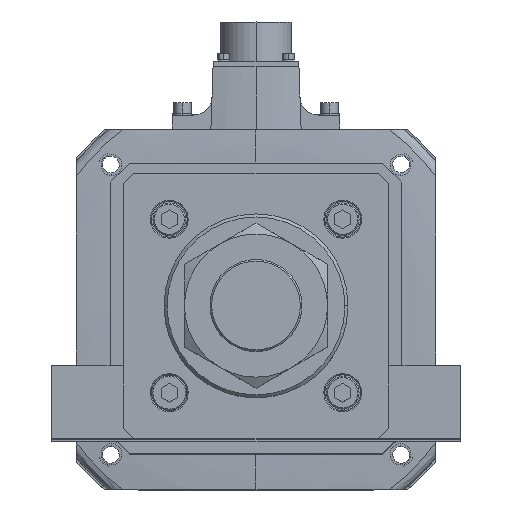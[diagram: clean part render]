
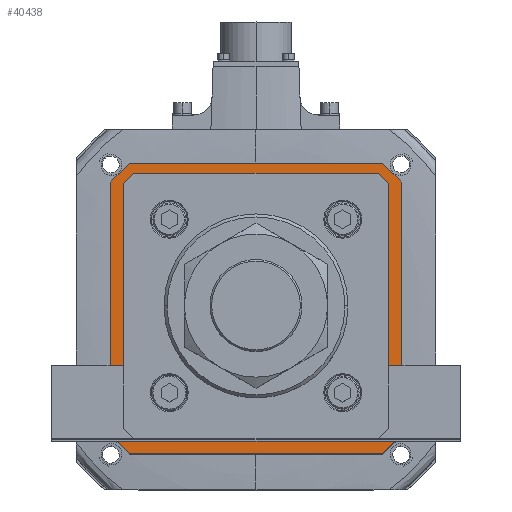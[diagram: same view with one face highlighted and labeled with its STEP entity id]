
A CAD part, top view. The second image highlights one B-rep face of the part: STEP entity #40438.
In plain terms, the highlighted planar face has unit normal (0, 0, 1).
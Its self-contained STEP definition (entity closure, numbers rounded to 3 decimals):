
#312 = CARTESIAN_POINT ( 'NONE',  ( -71., 62., -142. ) ) ;
#458 = LINE ( 'NONE', #42615, #24464 ) ;
#636 = CARTESIAN_POINT ( 'NONE',  ( 58.793, -63., -142. ) ) ;
#639 = ORIENTED_EDGE ( 'NONE', *, *, #35162, .T. ) ;
#863 = CARTESIAN_POINT ( 'NONE',  ( 63., 0., -142. ) ) ;
#952 = VECTOR ( 'NONE', #40757, 1000. ) ;
#1351 = EDGE_CURVE ( 'NONE', #38149, #47759, #20617, .T. ) ;
#1383 = LINE ( 'NONE', #17577, #10789 ) ;
#1620 = VERTEX_POINT ( 'NONE', #33879 ) ;
#1997 = ORIENTED_EDGE ( 'NONE', *, *, #21909, .F. ) ;
#2743 = DIRECTION ( 'NONE',  ( -0.707, -0.707, 0. ) ) ;
#3027 = DIRECTION ( 'NONE',  ( 0., 1., 0. ) ) ;
#3656 = DIRECTION ( 'NONE',  ( 0.707, -0.707, 0. ) ) ;
#4375 = EDGE_CURVE ( 'NONE', #19009, #14484, #31655, .T. ) ;
#4557 = ORIENTED_EDGE ( 'NONE', *, *, #4375, .T. ) ;
#4754 = ORIENTED_EDGE ( 'NONE', *, *, #23388, .T. ) ;
#5598 = CARTESIAN_POINT ( 'NONE',  ( 58.793, 63., -142. ) ) ;
#6096 = DIRECTION ( 'NONE',  ( 1., 0., 0. ) ) ;
#6195 = FACE_BOUND ( 'NONE', #9672, .T. ) ;
#6383 = DIRECTION ( 'NONE',  ( -1., 0., 0. ) ) ;
#9064 = CARTESIAN_POINT ( 'NONE',  ( 0., 0., -142. ) ) ;
#9672 = EDGE_LOOP ( 'NONE', ( #51607, #40688, #639, #14099, #25533, #45179, #4557, #4754 ) ) ;
#10186 = VERTEX_POINT ( 'NONE', #45405 ) ;
#10789 = VECTOR ( 'NONE', #21835, 1000. ) ;
#10886 = CARTESIAN_POINT ( 'NONE',  ( -63., 0., -142. ) ) ;
#13977 = ORIENTED_EDGE ( 'NONE', *, *, #47403, .F. ) ;
#14040 = VECTOR ( 'NONE', #42368, 1000. ) ;
#14099 = ORIENTED_EDGE ( 'NONE', *, *, #37522, .T. ) ;
#14484 = VERTEX_POINT ( 'NONE', #5598 ) ;
#14644 = EDGE_CURVE ( 'NONE', #35835, #10186, #48467, .T. ) ;
#15878 = CARTESIAN_POINT ( 'NONE',  ( -62., -71., -142. ) ) ;
#16614 = VECTOR ( 'NONE', #49746, 1000. ) ;
#16712 = LINE ( 'NONE', #25797, #14040 ) ;
#16779 = ORIENTED_EDGE ( 'NONE', *, *, #1351, .F. ) ;
#17577 = CARTESIAN_POINT ( 'NONE',  ( -71., 62., -142. ) ) ;
#18892 = VECTOR ( 'NONE', #3656, 1000. ) ;
#19009 = VERTEX_POINT ( 'NONE', #37038 ) ;
#19710 = VERTEX_POINT ( 'NONE', #30808 ) ;
#20436 = VECTOR ( 'NONE', #23893, 1000. ) ;
#20617 = LINE ( 'NONE', #44531, #16614 ) ;
#20972 = VERTEX_POINT ( 'NONE', #636 ) ;
#21299 = VECTOR ( 'NONE', #30575, 1000. ) ;
#21563 = PLANE ( 'NONE',  #33465 ) ;
#21566 = VERTEX_POINT ( 'NONE', #26351 ) ;
#21835 = DIRECTION ( 'NONE',  ( 0., 1., 0. ) ) ;
#21909 = EDGE_CURVE ( 'NONE', #27041, #19710, #48318, .T. ) ;
#22101 = DIRECTION ( 'NONE',  ( 1., 0., 0. ) ) ;
#23026 = DIRECTION ( 'NONE',  ( 0.707, -0.707, 0. ) ) ;
#23388 = EDGE_CURVE ( 'NONE', #14484, #1620, #27529, .T. ) ;
#23893 = DIRECTION ( 'NONE',  ( 1., 0., 0. ) ) ;
#24074 = ORIENTED_EDGE ( 'NONE', *, *, #25810, .F. ) ;
#24327 = VECTOR ( 'NONE', #3027, 1000. ) ;
#24464 = VECTOR ( 'NONE', #25107, 1000. ) ;
#25107 = DIRECTION ( 'NONE',  ( 0.707, 0.707, 0. ) ) ;
#25533 = ORIENTED_EDGE ( 'NONE', *, *, #45372, .T. ) ;
#25797 = CARTESIAN_POINT ( 'NONE',  ( -60.896, -60.896, -142. ) ) ;
#25810 = EDGE_CURVE ( 'NONE', #28398, #27041, #25965, .T. ) ;
#25965 = LINE ( 'NONE', #48841, #41938 ) ;
#26260 = EDGE_CURVE ( 'NONE', #10186, #38149, #43233, .T. ) ;
#26351 = CARTESIAN_POINT ( 'NONE',  ( -58.793, -63., -142. ) ) ;
#26571 = DIRECTION ( 'NONE',  ( -0.707, -0.707, 0. ) ) ;
#27041 = VERTEX_POINT ( 'NONE', #48272 ) ;
#27083 = CARTESIAN_POINT ( 'NONE',  ( -63., -58.793, -142. ) ) ;
#27446 = EDGE_CURVE ( 'NONE', #46307, #35835, #458, .T. ) ;
#27529 = LINE ( 'NONE', #34072, #18892 ) ;
#27634 = VECTOR ( 'NONE', #6383, 1000. ) ;
#28203 = CARTESIAN_POINT ( 'NONE',  ( 62., 71., -142. ) ) ;
#28238 = LINE ( 'NONE', #53861, #35556 ) ;
#28398 = VERTEX_POINT ( 'NONE', #53510 ) ;
#30575 = DIRECTION ( 'NONE',  ( 0., -1., 0. ) ) ;
#30808 = CARTESIAN_POINT ( 'NONE',  ( -71., -62., -142. ) ) ;
#31081 = CARTESIAN_POINT ( 'NONE',  ( 71., 62., -142. ) ) ;
#31225 = CARTESIAN_POINT ( 'NONE',  ( 63., -58.793, -142. ) ) ;
#31655 = LINE ( 'NONE', #32229, #38979 ) ;
#31956 = CARTESIAN_POINT ( 'NONE',  ( 0., -63., -142. ) ) ;
#32229 = CARTESIAN_POINT ( 'NONE',  ( 0., 63., -142. ) ) ;
#32679 = LINE ( 'NONE', #863, #21299 ) ;
#33023 = DIRECTION ( 'NONE',  ( -0.707, 0.707, 0. ) ) ;
#33465 = AXIS2_PLACEMENT_3D ( 'NONE', #9064, #51940, #22101 ) ;
#33879 = CARTESIAN_POINT ( 'NONE',  ( 63., 58.793, -142. ) ) ;
#34072 = CARTESIAN_POINT ( 'NONE',  ( 60.896, 60.896, -142. ) ) ;
#35032 = LINE ( 'NONE', #40571, #952 ) ;
#35162 = EDGE_CURVE ( 'NONE', #20972, #21566, #49617, .T. ) ;
#35556 = VECTOR ( 'NONE', #2743, 1000. ) ;
#35786 = EDGE_CURVE ( 'NONE', #36570, #20972, #28238, .T. ) ;
#35835 = VERTEX_POINT ( 'NONE', #37444 ) ;
#36149 = ORIENTED_EDGE ( 'NONE', *, *, #36492, .F. ) ;
#36198 = ORIENTED_EDGE ( 'NONE', *, *, #14644, .F. ) ;
#36316 = VECTOR ( 'NONE', #33023, 1000. ) ;
#36492 = EDGE_CURVE ( 'NONE', #47759, #28398, #40830, .T. ) ;
#36570 = VERTEX_POINT ( 'NONE', #31225 ) ;
#37038 = CARTESIAN_POINT ( 'NONE',  ( -58.793, 63., -142. ) ) ;
#37444 = CARTESIAN_POINT ( 'NONE',  ( -62., 71., -142. ) ) ;
#37518 = FACE_OUTER_BOUND ( 'NONE', #41286, .T. ) ;
#37522 = EDGE_CURVE ( 'NONE', #21566, #53504, #16712, .T. ) ;
#38089 = EDGE_CURVE ( 'NONE', #1620, #36570, #32679, .T. ) ;
#38149 = VERTEX_POINT ( 'NONE', #48255 ) ;
#38979 = VECTOR ( 'NONE', #6096, 1000. ) ;
#40369 = CARTESIAN_POINT ( 'NONE',  ( -63., 58.793, -142. ) ) ;
#40438 = ADVANCED_FACE ( 'NONE', ( #6195, #37518 ), #21563, .T. ) ;
#40571 = CARTESIAN_POINT ( 'NONE',  ( -60.896, 60.896, -142. ) ) ;
#40688 = ORIENTED_EDGE ( 'NONE', *, *, #35786, .T. ) ;
#40757 = DIRECTION ( 'NONE',  ( 0.707, 0.707, 0. ) ) ;
#40830 = LINE ( 'NONE', #42597, #50827 ) ;
#41286 = EDGE_LOOP ( 'NONE', ( #36198, #53418, #13977, #1997, #24074, #36149, #16779, #48143 ) ) ;
#41923 = CARTESIAN_POINT ( 'NONE',  ( 71., -62., -142. ) ) ;
#41938 = VECTOR ( 'NONE', #49581, 1000. ) ;
#42158 = VERTEX_POINT ( 'NONE', #40369 ) ;
#42368 = DIRECTION ( 'NONE',  ( -0.707, 0.707, 0. ) ) ;
#42597 = CARTESIAN_POINT ( 'NONE',  ( 71., -62., -142. ) ) ;
#42615 = CARTESIAN_POINT ( 'NONE',  ( -62., 71., -142. ) ) ;
#43233 = LINE ( 'NONE', #31081, #55272 ) ;
#44531 = CARTESIAN_POINT ( 'NONE',  ( 71., 62., -142. ) ) ;
#44961 = EDGE_CURVE ( 'NONE', #42158, #19009, #35032, .T. ) ;
#45179 = ORIENTED_EDGE ( 'NONE', *, *, #44961, .T. ) ;
#45372 = EDGE_CURVE ( 'NONE', #53504, #42158, #48338, .T. ) ;
#45405 = CARTESIAN_POINT ( 'NONE',  ( 62., 71., -142. ) ) ;
#46307 = VERTEX_POINT ( 'NONE', #312 ) ;
#47403 = EDGE_CURVE ( 'NONE', #19710, #46307, #1383, .T. ) ;
#47759 = VERTEX_POINT ( 'NONE', #41923 ) ;
#48143 = ORIENTED_EDGE ( 'NONE', *, *, #26260, .F. ) ;
#48255 = CARTESIAN_POINT ( 'NONE',  ( 71., 62., -142. ) ) ;
#48272 = CARTESIAN_POINT ( 'NONE',  ( -62., -71., -142. ) ) ;
#48318 = LINE ( 'NONE', #15878, #36316 ) ;
#48338 = LINE ( 'NONE', #10886, #24327 ) ;
#48467 = LINE ( 'NONE', #28203, #20436 ) ;
#48841 = CARTESIAN_POINT ( 'NONE',  ( 62., -71., -142. ) ) ;
#49581 = DIRECTION ( 'NONE',  ( -1., 0., 0. ) ) ;
#49617 = LINE ( 'NONE', #31956, #27634 ) ;
#49746 = DIRECTION ( 'NONE',  ( 0., -1., 0. ) ) ;
#50827 = VECTOR ( 'NONE', #26571, 1000. ) ;
#51607 = ORIENTED_EDGE ( 'NONE', *, *, #38089, .T. ) ;
#51940 = DIRECTION ( 'NONE',  ( 0., 0., 1. ) ) ;
#53418 = ORIENTED_EDGE ( 'NONE', *, *, #27446, .F. ) ;
#53504 = VERTEX_POINT ( 'NONE', #27083 ) ;
#53510 = CARTESIAN_POINT ( 'NONE',  ( 62., -71., -142. ) ) ;
#53861 = CARTESIAN_POINT ( 'NONE',  ( 60.896, -60.896, -142. ) ) ;
#55272 = VECTOR ( 'NONE', #23026, 1000. ) ;
